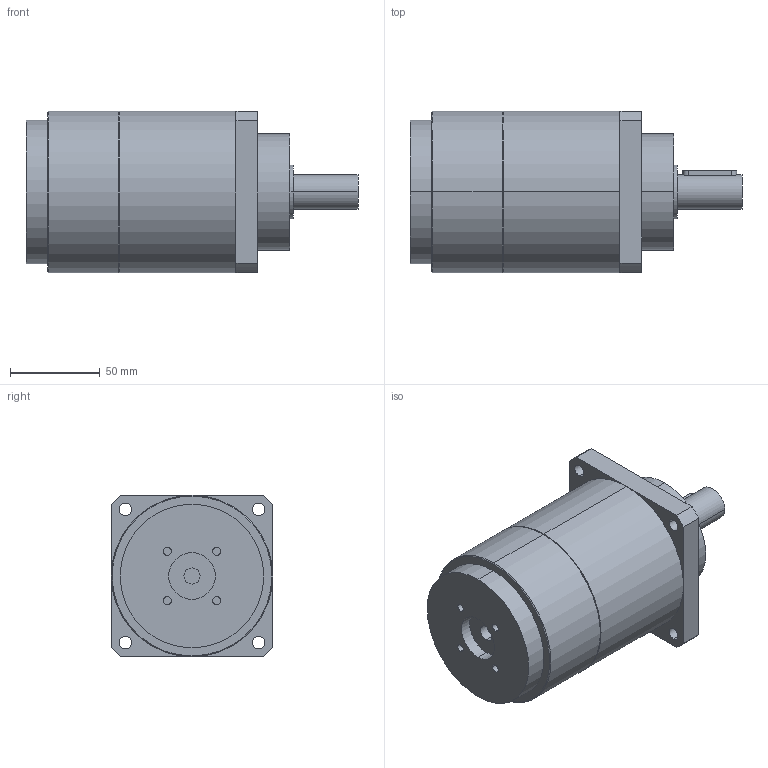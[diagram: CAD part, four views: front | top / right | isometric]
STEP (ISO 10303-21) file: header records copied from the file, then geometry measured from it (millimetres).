
FILE_DESCRIPTION(('CoCreate Modeling STEP Export'),'2;1');
FILE_NAME('GPT90_ig-9-12-16-20-25-28-35-40-50-70-100_19_B5T_9.525_P09.stp','2015-02-04T11:34:57',(''),(''),'CoCreate Modeling STEP processor for AP214 (Solid Model)','CoCreate Modeling 16.00C 25-Feb-2009 (C) Parametric Technology GmbH','');
FILE_SCHEMA(('AUTOMOTIVE_DESIGN { 1 0 10303 214 1 1 1 1 }'));
Length unit declared in the file: millimetre
Products named in the file (2): GPT90_ig-9-12-16-20-25-28-35-40-50-70-100_19_B5T_9.525_P09
Assembly tree (1 placements, depth 2):
  GPT90_ig-9-12-16-20-25-28-35-40-50-70-100_19_B5T_9.525_P09
    GPT90_ig-9-12-16-20-25-28-35-40-50-70-100_19_B5T_9.525_P09
Bounding box: 185 x 90 x 90 mm (x, y, z)
Volume: 887443.2 mm3; surface area: 62673.8 mm2
Topology: 1 solids, 1 shells, 72 faces, 182 edges, 125 vertices
Faces by surface type: cylinder 42, plane 26, cone 4
Entity records: 2276 total; most frequent: CARTESIAN_POINT 688, ORIENTED_EDGE 364, DIRECTION 270, EDGE_CURVE 182, VERTEX_POINT 125, AXIS2_PLACEMENT_3D 101, EDGE_LOOP 93, FACE_OUTER_BOUND 72
